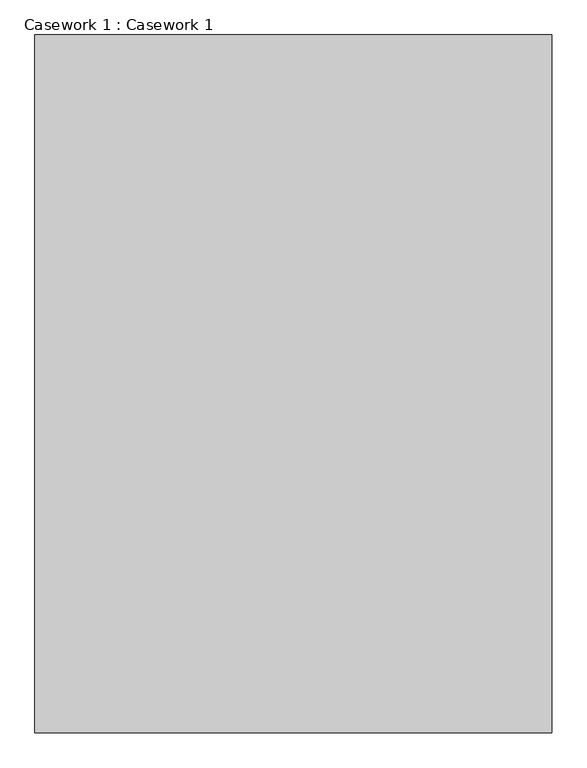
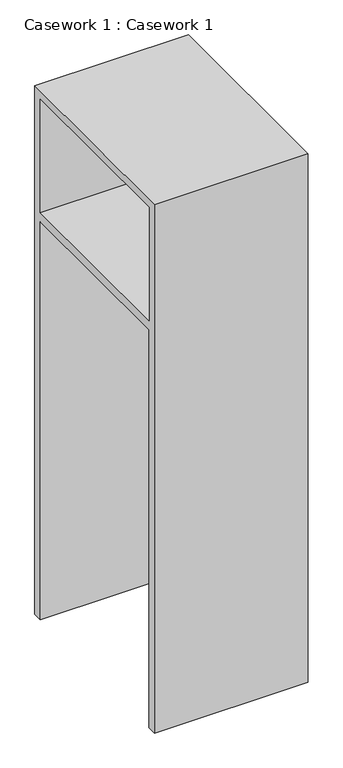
"""IFC4 building model written with IfcOpenShell, lengths in millimetres: furniture geometry, Casework 1 : Casework 1."""

from ifc_helpers import new_model, si_unit, frame, origin, place, context, project, spatial, polyline, outline, extrude, source, transform, mapped, element, save


def casework_1_casework_1_b2477b38(model_context):
    return source(origin(), model_context, "Body", "SweptSolid", [
        extrude(outline(polyline([(6437.9358549, 6600.0), (6387.9358549, 6600.0), (6387.9358549, 8790.0), (5407.9486583, 8790.0), (5407.9486583, 6600.0), (5357.9486583, 6600.0), (5357.9486583, 9507.0), (6437.9358549, 9507.0), (6437.9358549, 6600.0)]), holes=[polyline([(6387.9358549, 8840.0), (6387.9358549, 9462.0), (5407.9486583, 9462.0), (5407.9486583, 8840.0), (6387.9358549, 8840.0)])]), frame((6435.5234079, 0.0, 0.0), z_axis=(1.0, 0.0, 0.0), x_axis=(0.0, 1.0, 0.0)), (0.0, 0.0, 1.0), 800.0),
    ])


if __name__ == "__main__":
    model = new_model("IFC4")
    model_context = context("Model", 3, world=origin())
    ifc_project = project(units=[si_unit("LENGTHUNIT", "METRE", prefix="MILLI")], contexts=[model_context])
    site = spatial("IfcSite", under=ifc_project)
    building = spatial("IfcBuilding", under=site)
    placement = place(None, origin())
    casework_1_casework_1_shape = casework_1_casework_1_b2477b38(model_context)
    element("IfcFurniture", 1, ObjectType="Casework 1 : Casework 1", at=placement, inside=building, context=model_context, shape_type="MappedRepresentation", body=[
        mapped(casework_1_casework_1_shape, transform((0.0, 0.0, 0.0), x_axis=(1.0, 0.0, 0.0), y_axis=(0.0, 1.0, 0.0), z_axis=(0.0, 0.0, 1.0))),
    ])
    save(model, "model.ifc")
